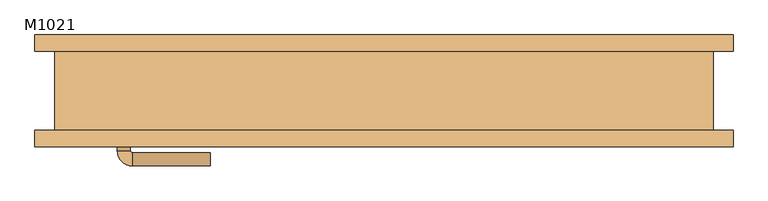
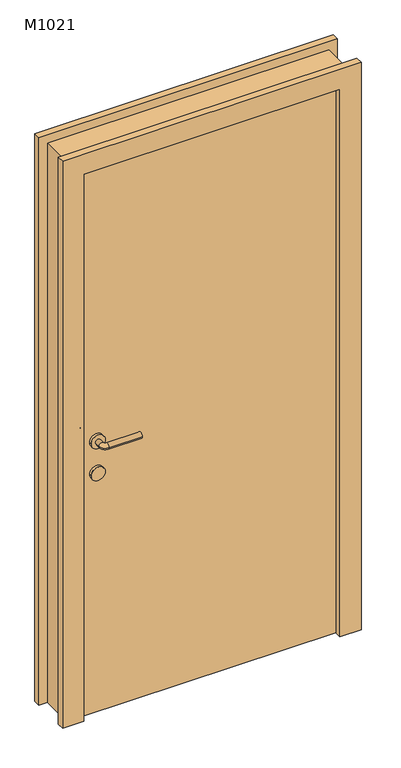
"""IFC4 building model written with IfcOpenShell, lengths in millimetres: door geometry, 单嵌板木门 1 : M1021."""

from ifc_helpers import new_model, si_unit, point, frame, frame_2d, origin, origin_with_axes, place, context, project, spatial, polyline, circle_curve, ellipse_curve, trimmed, segment, composite_curve, outline, extrude, source, transform, mapped, element, save
from ifc_brep_helpers import plane_surface, cylinder_surface, revolved_surface, advanced_brep


def m1021_343cb919(model_context):
    return source(origin(), model_context, "Body", "SolidModel", [
        extrude(outline(composite_curve([segment(trimmed(circle_curve(frame_2d((900.0, -395.0)), 25.0), [point((900.0, -370.0))], [point((900.0, -420.0))], False, "CARTESIAN"), True, "CONTINUOUS"), segment(trimmed(circle_curve(frame_2d((900.0, -395.0)), 25.0), [point((900.0, -420.0))], [point((900.0, -370.0))], False, "CARTESIAN"), True, "CONTINUOUS")], self_intersect=False)), frame((0.0, -10.0, 0.0), z_axis=(0.0, 1.0, 0.0), x_axis=(0.0, 0.0, 1.0)), (0.0, 0.0, 1.0), 10.0),
        extrude(outline(composite_curve([segment(trimmed(circle_curve(frame_2d((900.0, -395.0)), 25.0), [point((900.0, -370.0))], [point((900.0, -420.0))], False, "CARTESIAN"), True, "CONTINUOUS"), segment(trimmed(circle_curve(frame_2d((900.0, -395.0)), 25.0), [point((900.0, -420.0))], [point((900.0, -370.0))], False, "CARTESIAN"), True, "CONTINUOUS")], self_intersect=False)), frame((0.0, -70.0, 0.0), z_axis=(0.0, 1.0, 0.0), x_axis=(0.0, 0.0, 1.0)), (0.0, 0.0, 1.0), 10.0),
        advanced_brep(
        [(-405.0, 0.0, 1020.0), (-385.0, 0.0, 1020.0), (-405.0, 20.613355, 1020.0), (-385.0, 20.613355, 1020.0), (-263.419036, 43.580964, 1020.0), (-263.419036, 23.580964, 1020.0), (-382.0323911, 23.580964, 1020.0), (-382.0323911, 43.580964, 1020.0)],
        [
            (0, 1, circle_curve(frame((-395.0, 0.0, 1020.0), z_axis=(0.0, -1.0, 0.0), x_axis=(1.0, 0.0, 0.0)), 10.0)),
            (1, 0, circle_curve(frame((-395.0, 0.0, 1020.0), z_axis=(0.0, -1.0, 0.0), x_axis=(1.0, 0.0, 0.0)), 10.0)),
            (0, 2),
            (2, 3, circle_curve(frame((-395.0, 20.613355, 1020.0), z_axis=(0.0, -1.0, 0.0), x_axis=(1.0, 0.0, 0.0)), 10.0)),
            (3, 1),
            (3, 2, circle_curve(frame((-395.0, 20.613355, 1020.0), z_axis=(0.0, -1.0, 0.0), x_axis=(1.0, 0.0, 0.0)), 10.0)),
            (4, 5, circle_curve(frame((-263.419036, 33.580964, 1020.0), z_axis=(1.0, 0.0, 0.0), x_axis=(0.0, -1.0, 0.0)), 10.0)),
            (5, 4, circle_curve(frame((-263.419036, 33.580964, 1020.0), z_axis=(1.0, 0.0, 0.0), x_axis=(0.0, -1.0, 0.0)), 10.0)),
            (6, 7, circle_curve(frame((-382.0323911, 33.580964, 1020.0), z_axis=(-1.0, 0.0, 0.0), x_axis=(0.0, -1.0, 0.0)), 10.0)),
            (7, 2, circle_curve(frame((-382.0323911, 20.613355, 1020.0), z_axis=(0.0, 0.0, 1.0), x_axis=(-1.0, 0.0, 0.0)), 22.9676089)),
            (3, 6, circle_curve(frame((-382.0323911, 20.613355, 1020.0), z_axis=(0.0, 0.0, -1.0), x_axis=(-1.0, 0.0, 0.0)), 2.9676089)),
            (7, 6, circle_curve(frame((-382.0323911, 33.580964, 1020.0), z_axis=(-1.0, 0.0, 0.0), x_axis=(0.0, -1.0, 0.0)), 10.0)),
            (6, 5),
            (4, 7),
        ],
        [
            plane_surface(frame((-395.0, 0.0, 900.0), z_axis=(0.0, -1.0, 0.0), x_axis=(0.0, 0.0, 1.0))),
            cylinder_surface(frame((-395.0, 0.0, 1020.0), z_axis=(0.0, -1.0, 0.0), x_axis=(1.0, 0.0, 0.0)), 10.0),
            plane_surface(frame((-263.419036, 33.580964, 900.0), z_axis=(1.0, 0.0, 0.0), x_axis=(0.0, 0.0, 1.0))),
            revolved_surface(trimmed(ellipse_curve(frame((-395.0, 20.613355, 1020.0), z_axis=(0.0, 1.0, 0.0), x_axis=(1.0, 0.0, 0.0)), 10.0, 10.0), [point((-405.0, 20.613355, 1020.0))], [point((-385.0, 20.613355, 1020.0))], True, "CARTESIAN"), (-382.0323911, 20.613355, 900.0), (0.0, 0.0, 1.0)),
            revolved_surface(trimmed(ellipse_curve(frame((-395.0, 20.613355, 1020.0), z_axis=(0.0, 1.0, 0.0), x_axis=(1.0, 0.0, 0.0)), 10.0, 10.0), [point((-385.0, 20.613355, 1020.0))], [point((-405.0, 20.613355, 1020.0))], True, "CARTESIAN"), (-382.0323911, 20.613355, 900.0), (0.0, 0.0, 1.0)),
            cylinder_surface(frame((-382.0323911, 33.580964, 1020.0), z_axis=(-1.0, 0.0, 0.0), x_axis=(0.0, -1.0, 0.0)), 10.0),
        ],
        [
            (0, [[1, 2]]),
            (1, [[3, 4, 5, -1]]),
            (1, [[-5, 6, -3, -2]]),
            (2, [[7, 8]]),
            (3, [[9, 10, -6, 11]]),
            (4, [[12, -11, -4, -10]]),
            (5, [[13, -7, 14, -9]]),
            (5, [[-14, -8, -13, -12]]),
        ],
    ),
        extrude(outline(composite_curve([segment(trimmed(circle_curve(frame_2d((1020.0, -395.0)), 25.0), [point((1020.0, -370.0))], [point((1020.0, -420.0))], False, "CARTESIAN"), True, "CONTINUOUS"), segment(trimmed(circle_curve(frame_2d((1020.0, -395.0)), 25.0), [point((1020.0, -420.0))], [point((1020.0, -370.0))], False, "CARTESIAN"), True, "CONTINUOUS")], self_intersect=False)), frame((0.0, -10.0, 0.0), z_axis=(0.0, 1.0, 0.0), x_axis=(0.0, 0.0, 1.0)), (0.0, 0.0, 1.0), 10.0),
        advanced_brep(
        [(-385.0, -70.0, 1020.0), (-405.0, -70.0, 1020.0), (-405.0, -90.6133551, 1020.0), (-385.0, -90.6133551, 1020.0), (-263.419036, -93.580964, 1020.0), (-263.419036, -113.580964, 1020.0), (-382.0323911, -113.580964, 1020.0), (-382.0323911, -93.580964, 1020.0)],
        [
            (0, 1, circle_curve(frame((-395.0, -70.0, 1020.0), z_axis=(0.0, 1.0, 0.0), x_axis=(-1.0, 0.0, 0.0)), 10.0)),
            (1, 0, circle_curve(frame((-395.0, -70.0, 1020.0), z_axis=(0.0, 1.0, 0.0), x_axis=(-1.0, 0.0, 0.0)), 10.0)),
            (1, 2),
            (2, 3, circle_curve(frame((-395.0, -90.6133551, 1020.0), z_axis=(0.0, 1.0, 0.0), x_axis=(-1.0, 0.0, 0.0)), 10.0)),
            (3, 0),
            (3, 2, circle_curve(frame((-395.0, -90.6133551, 1020.0), z_axis=(0.0, 1.0, 0.0), x_axis=(-1.0, 0.0, 0.0)), 10.0)),
            (4, 5, circle_curve(frame((-263.419036, -103.580964, 1020.0), z_axis=(1.0, 0.0, 0.0), x_axis=(0.0, -1.0, 0.0)), 10.0)),
            (5, 4, circle_curve(frame((-263.419036, -103.580964, 1020.0), z_axis=(1.0, 0.0, 0.0), x_axis=(0.0, -1.0, 0.0)), 10.0)),
            (6, 7, circle_curve(frame((-382.0323911, -103.580964, 1020.0), z_axis=(-1.0, 0.0, 0.0), x_axis=(0.0, -1.0, 0.0)), 10.0)),
            (7, 3, circle_curve(frame((-382.0323911, -90.6133551, 1020.0), z_axis=(0.0, 0.0, -1.0), x_axis=(-1.0, 0.0, 0.0)), 2.9676089)),
            (2, 6, circle_curve(frame((-382.0323911, -90.6133551, 1020.0), z_axis=(0.0, 0.0, 1.0), x_axis=(-1.0, 0.0, 0.0)), 22.9676089)),
            (7, 6, circle_curve(frame((-382.0323911, -103.580964, 1020.0), z_axis=(-1.0, 0.0, 0.0), x_axis=(0.0, -1.0, 0.0)), 10.0)),
            (6, 5),
            (4, 7),
        ],
        [
            plane_surface(frame((-395.0, -70.0, 900.0), z_axis=(0.0, 1.0, 0.0), x_axis=(0.0, 0.0, 1.0))),
            cylinder_surface(frame((-395.0, -70.0, 1020.0), z_axis=(0.0, 1.0, 0.0), x_axis=(-1.0, 0.0, 0.0)), 10.0),
            plane_surface(frame((-263.419036, -103.580964, 900.0), z_axis=(1.0, 0.0, 0.0), x_axis=(0.0, 0.0, 1.0))),
            revolved_surface(trimmed(ellipse_curve(frame((-395.0, -90.6133551, 1020.0), z_axis=(0.0, -1.0, 0.0), x_axis=(-1.0, 0.0, 0.0)), 10.0, 10.0), [point((-385.0, -90.6133551, 1020.0))], [point((-405.0, -90.6133551, 1020.0))], True, "CARTESIAN"), (-382.0323911, -90.6133551, 900.0), (0.0, 0.0, -1.0)),
            revolved_surface(trimmed(ellipse_curve(frame((-395.0, -90.6133551, 1020.0), z_axis=(0.0, -1.0, 0.0), x_axis=(-1.0, 0.0, 0.0)), 10.0, 10.0), [point((-405.0, -90.6133551, 1020.0))], [point((-385.0, -90.6133551, 1020.0))], True, "CARTESIAN"), (-382.0323911, -90.6133551, 900.0), (0.0, 0.0, -1.0)),
            cylinder_surface(frame((-382.0323911, -103.580964, 1020.0), z_axis=(-1.0, 0.0, 0.0), x_axis=(0.0, -1.0, 0.0)), 10.0),
        ],
        [
            (0, [[1, 2]]),
            (1, [[3, 4, 5, -2]]),
            (1, [[-5, 6, -3, -1]]),
            (2, [[7, 8]]),
            (3, [[9, 10, -4, 11]]),
            (4, [[12, -11, -6, -10]]),
            (5, [[13, -7, 14, -9]]),
            (5, [[-14, -8, -13, -12]]),
        ],
    ),
        extrude(outline(composite_curve([segment(trimmed(circle_curve(frame_2d((1020.0, -395.0)), 25.0), [point((1020.0, -370.0))], [point((1020.0, -420.0))], False, "CARTESIAN"), True, "CONTINUOUS"), segment(trimmed(circle_curve(frame_2d((1020.0, -395.0)), 25.0), [point((1020.0, -420.0))], [point((1020.0, -370.0))], False, "CARTESIAN"), True, "CONTINUOUS")], self_intersect=False)), frame((0.0, -70.0, 0.0), z_axis=(0.0, 1.0, 0.0), x_axis=(0.0, 0.0, 1.0)), (0.0, 0.0, 1.0), 10.0),
        extrude(outline(polyline([(0.0, 530.0), (2130.0, 530.0), (2130.0, -530.0), (0.0, -530.0), (0.0, -455.0), (2055.0, -455.0), (2055.0, 455.0), (0.0, 455.0), (0.0, 530.0)])), frame((0.0, -85.0, 0.0), z_axis=(0.0, 1.0, 0.0), x_axis=(0.0, 0.0, 1.0)), (0.0, 0.0, 1.0), 25.0),
        extrude(outline(polyline([(2130.0, 530.0), (2130.0, -530.0), (0.0, -530.0), (0.0, -455.0), (2055.0, -455.0), (2055.0, 455.0), (0.0, 455.0), (0.0, 530.0), (2130.0, 530.0)])), frame((0.0, 60.0, 0.0), z_axis=(0.0, 1.0, 0.0), x_axis=(0.0, 0.0, 1.0)), (0.0, 0.0, 1.0), 25.0),
        extrude(outline(polyline([(455.0, -10.0), (455.0, -60.0), (-455.0, -60.0), (-455.0, -10.0), (455.0, -10.0)])), origin_with_axes(), (0.0, 0.0, 1.0), 2055.0),
        extrude(outline(polyline([(2100.0, -500.0), (0.0, -500.0), (0.0, -455.0), (2055.0, -455.0), (2055.0, 455.0), (0.0, 455.0), (0.0, 500.0), (2100.0, 500.0), (2100.0, -500.0)])), frame((0.0, -60.0, 0.0), z_axis=(0.0, 1.0, 0.0), x_axis=(0.0, 0.0, 1.0)), (0.0, 0.0, 1.0), 120.0),
    ])


if __name__ == "__main__":
    model = new_model("IFC4")
    model_context = context("Model", 3, world=origin())
    ifc_project = project(units=[si_unit("LENGTHUNIT", "METRE", prefix="MILLI")], contexts=[model_context])
    site = spatial("IfcSite", under=ifc_project)
    building = spatial("IfcBuilding", under=site)
    placement = place(None, origin())
    m1021_shape = m1021_343cb919(model_context)
    element("IfcDoor", 1, ObjectType="单嵌板木门 1 : M1021", at=placement, inside=building, context=model_context, shape_type="MappedRepresentation", body=[
        mapped(m1021_shape, transform((0.0, 0.0, 0.0), x_axis=(1.0, 0.0, 0.0), y_axis=(0.0, 1.0, 0.0), z_axis=(0.0, 0.0, 1.0))),
    ])
    save(model, "model.ifc")
